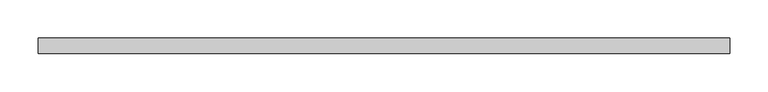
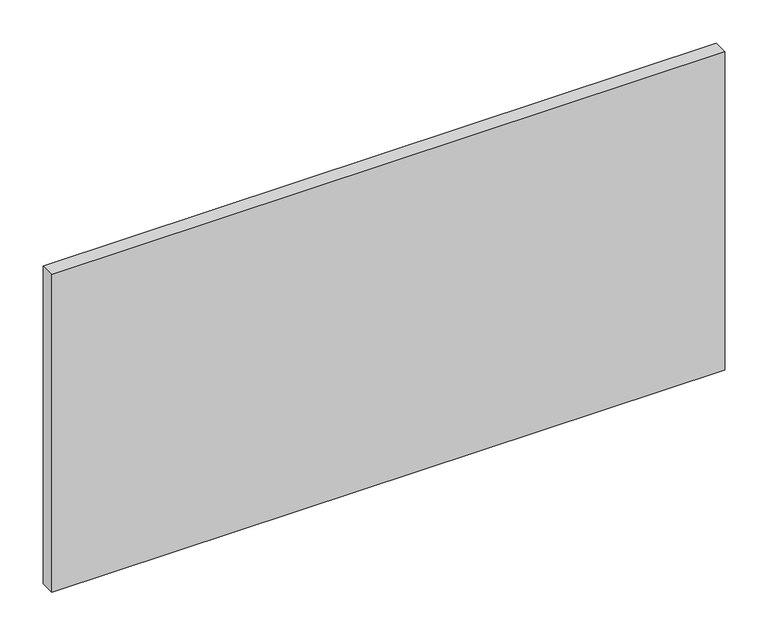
"""IFC4 building model written with IfcOpenShell, lengths in millimetres: proxy geometry, GM_Панель фасадная : Декоративные перемычки."""

from ifc_helpers import new_model, si_unit, origin, origin_with_axes, place, context, project, spatial, polyline, outline, extrude, source, transform, mapped, element, save


def generic_models_0ea3a2f0(model_context):
    return source(origin(), model_context, "Body", "SweptSolid", [
        extrude(outline(polyline([(-775.0, 125.0), (125.0, 125.0), (125.0, 105.0), (-775.0, 105.0), (-775.0, 125.0)])), origin_with_axes(), (0.0, 0.0, 1.0), 450.0),
    ])


if __name__ == "__main__":
    model = new_model("IFC4")
    model_context = context("Model", 3, world=origin())
    ifc_project = project(units=[si_unit("LENGTHUNIT", "METRE", prefix="MILLI")], contexts=[model_context])
    site = spatial("IfcSite", under=ifc_project)
    building = spatial("IfcBuilding", under=site)
    placement = place(None, origin())
    generic_models_shape = generic_models_0ea3a2f0(model_context)
    element("IfcBuildingElementProxy", 1, Name="GM_Панель фасадная : Декоративные перемычки", ObjectType="GM_Панель фасадная : Декоративные перемычки", at=placement, inside=building, context=model_context, shape_type="MappedRepresentation", body=[
        mapped(generic_models_shape, transform((0.0, 0.0, 0.0), x_axis=(1.0, 0.0, 0.0), y_axis=(0.0, 1.0, 0.0), z_axis=(0.0, 0.0, 1.0))),
    ])
    save(model, "model.ifc")
